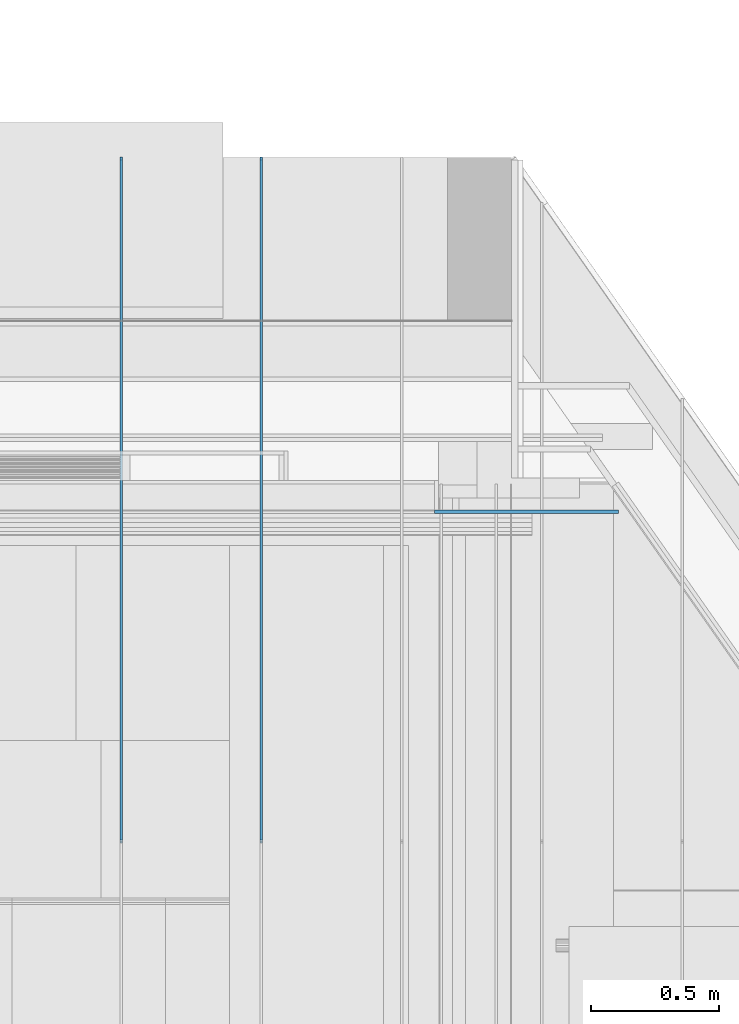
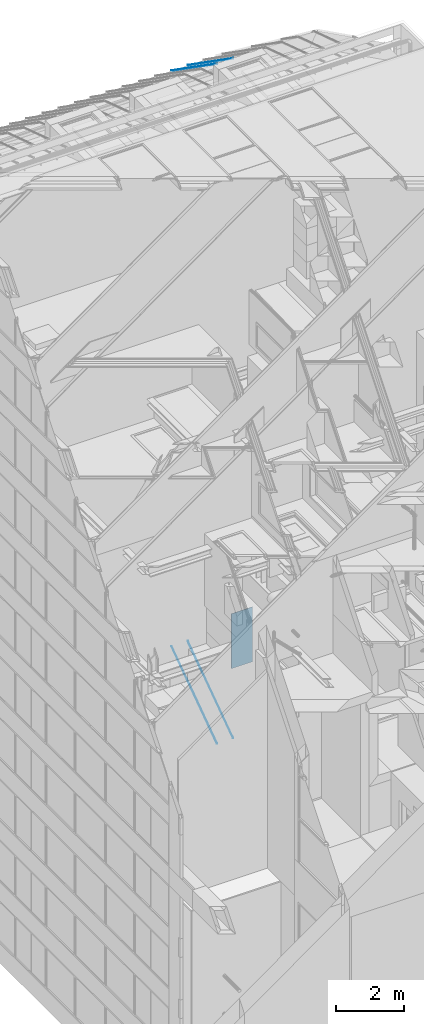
# One storey, part 295 of 583: 5 slabs.
"""IFC2X3 building model written with IfcOpenShell, lengths in metres."""

from ifc_helpers import new_model, entity, si_unit, converted_unit, derived_unit, money_unit, direction, frame, origin_with_axes, place, context, subcontext, project, spatial, faceted_brep, material, type_object, element, save


model = new_model("IFC2X3")

# Units and contexts
model_context = context("Model", 3, precision=1e-05, world=origin_with_axes(), true_north=direction((0.0, 1.0)))
body_context = subcontext(model_context, "Body", "Model", "MODEL_VIEW", scale=1.0)
ifc_project = project(units=[si_unit("LENGTHUNIT", "METRE"), si_unit("AREAUNIT", "SQUARE_METRE"), si_unit("VOLUMEUNIT", "CUBIC_METRE"), si_unit("ABSORBEDDOSEUNIT", "GRAY"), si_unit("AMOUNTOFSUBSTANCEUNIT", "MOLE"), si_unit("DOSEEQUIVALENTUNIT", "SIEVERT"), si_unit("ELECTRICCAPACITANCEUNIT", "FARAD"), si_unit("ELECTRICCHARGEUNIT", "COULOMB"), si_unit("ELECTRICCONDUCTANCEUNIT", "SIEMENS"), si_unit("ELECTRICCURRENTUNIT", "AMPERE"), si_unit("ELECTRICRESISTANCEUNIT", "OHM"), si_unit("ELECTRICVOLTAGEUNIT", "VOLT"), si_unit("ENERGYUNIT", "JOULE"), si_unit("FORCEUNIT", "NEWTON"), si_unit("FREQUENCYUNIT", "HERTZ"), si_unit("ILLUMINANCEUNIT", "LUX"), si_unit("INDUCTANCEUNIT", "HENRY"), si_unit("LUMINOUSFLUXUNIT", "LUMEN"), si_unit("LUMINOUSINTENSITYUNIT", "CANDELA"), si_unit("MAGNETICFLUXDENSITYUNIT", "TESLA"), si_unit("MAGNETICFLUXUNIT", "WEBER"), si_unit("MASSUNIT", "GRAM"), converted_unit("PLANEANGLEUNIT", "degree", entity("IfcReal", 0.0174532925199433), si_unit("PLANEANGLEUNIT", "RADIAN"), dimensions=[0, 0, 0, 0, 0, 0, 0]), si_unit("POWERUNIT", "WATT"), si_unit("PRESSUREUNIT", "PASCAL"), si_unit("RADIOACTIVITYUNIT", "BECQUEREL"), si_unit("SOLIDANGLEUNIT", "STERADIAN"), si_unit("THERMODYNAMICTEMPERATUREUNIT", "KELVIN"), si_unit("TIMEUNIT", "SECOND"), derived_unit("ACCELERATIONUNIT", [(si_unit("LENGTHUNIT", "METRE"), 1), (si_unit("TIMEUNIT", "SECOND"), -2)]), derived_unit("ANGULARVELOCITYUNIT", [(converted_unit("PLANEANGLEUNIT", "degree", entity("IfcReal", 0.0174532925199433), si_unit("PLANEANGLEUNIT", "RADIAN"), dimensions=[0, 0, 0, 0, 0, 0, 0]), 1), (si_unit("TIMEUNIT", "SECOND"), -1)]), derived_unit("CURVATUREUNIT", [(converted_unit("PLANEANGLEUNIT", "degree", entity("IfcReal", 0.0174532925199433), si_unit("PLANEANGLEUNIT", "RADIAN"), dimensions=[0, 0, 0, 0, 0, 0, 0]), 1), (si_unit("LENGTHUNIT", "METRE"), -1)]), derived_unit("DYNAMICVISCOSITYUNIT", [(si_unit("PRESSUREUNIT", "PASCAL"), 1), (si_unit("TIMEUNIT", "SECOND"), 1)]), derived_unit("HEATFLUXDENSITYUNIT", [(si_unit("POWERUNIT", "WATT"), 1), (si_unit("LENGTHUNIT", "METRE"), -2)]), derived_unit("HEATINGVALUEUNIT", [(si_unit("ENERGYUNIT", "JOULE"), 1), (si_unit("MASSUNIT", "GRAM"), -1)]), derived_unit("INTEGERCOUNTRATEUNIT", [(si_unit("TIMEUNIT", "SECOND"), -1)]), derived_unit("IONCONCENTRATIONUNIT", [(si_unit("MASSUNIT", "GRAM"), 1), (si_unit("VOLUMEUNIT", "CUBIC_METRE"), -1)]), derived_unit("ISOTHERMALMOISTURECAPACITYUNIT", [(si_unit("VOLUMEUNIT", "CUBIC_METRE"), 1), (si_unit("MASSUNIT", "GRAM"), -1)]), derived_unit("KINEMATICVISCOSITYUNIT", [(si_unit("AREAUNIT", "SQUARE_METRE"), 1), (si_unit("TIMEUNIT", "SECOND"), -1)]), derived_unit("LINEARFORCEUNIT", [(si_unit("FORCEUNIT", "NEWTON"), 1), (si_unit("LENGTHUNIT", "METRE"), -1)]), derived_unit("LINEARMOMENTUNIT", [(si_unit("FORCEUNIT", "NEWTON"), 1), (si_unit("LENGTHUNIT", "METRE"), -1)]), derived_unit("LINEARSTIFFNESSUNIT", [(si_unit("FORCEUNIT", "NEWTON"), 1), (si_unit("LENGTHUNIT", "METRE"), -1)]), derived_unit("LINEARVELOCITYUNIT", [(si_unit("LENGTHUNIT", "METRE"), 1), (si_unit("TIMEUNIT", "SECOND"), -1)]), derived_unit("LUMINOUSINTENSITYDISTRIBUTIONUNIT", [(si_unit("LUMINOUSINTENSITYUNIT", "CANDELA"), 1), (si_unit("LUMINOUSFLUXUNIT", "LUMEN"), -1)]), derived_unit("MASSDENSITYUNIT", [(si_unit("MASSUNIT", "GRAM"), 1), (si_unit("VOLUMEUNIT", "CUBIC_METRE"), -1)]), derived_unit("MASSFLOWRATEUNIT", [(si_unit("MASSUNIT", "GRAM"), 1), (si_unit("TIMEUNIT", "SECOND"), -1)]), derived_unit("MASSPERLENGTHUNIT", [(si_unit("MASSUNIT", "GRAM"), 1), (si_unit("LENGTHUNIT", "METRE"), -1)]), derived_unit("MODULUSOFELASTICITYUNIT", [(si_unit("FORCEUNIT", "NEWTON"), 1), (si_unit("AREAUNIT", "SQUARE_METRE"), -1)]), derived_unit("MODULUSOFLINEARSUBGRADEREACTIONUNIT", [(si_unit("FORCEUNIT", "NEWTON"), 1), (si_unit("LENGTHUNIT", "METRE"), -2)]), derived_unit("MODULUSOFROTATIONALSUBGRADEREACTIONUNIT", [(si_unit("FORCEUNIT", "NEWTON"), 1), (si_unit("LENGTHUNIT", "METRE"), 1)]), derived_unit("MODULUSOFSUBGRADEREACTIONUNIT", [(si_unit("FORCEUNIT", "NEWTON"), 1), (si_unit("VOLUMEUNIT", "CUBIC_METRE"), -1)]), derived_unit("MOISTUREDIFFUSIVITYUNIT", [(si_unit("VOLUMEUNIT", "CUBIC_METRE"), 1), (si_unit("TIMEUNIT", "SECOND"), -1)]), derived_unit("MOLECULARWEIGHTUNIT", [(si_unit("MASSUNIT", "GRAM"), 1), (si_unit("AMOUNTOFSUBSTANCEUNIT", "MOLE"), -1)]), derived_unit("PLANARFORCEUNIT", [(si_unit("FORCEUNIT", "NEWTON"), 1), (si_unit("LENGTHUNIT", "METRE"), -2)]), derived_unit("ROTATIONALFREQUENCYUNIT", [(si_unit("TIMEUNIT", "SECOND"), -1)]), derived_unit("ROTATIONALMASSUNIT", [(si_unit("MASSUNIT", "GRAM"), 1), (si_unit("LENGTHUNIT", "METRE"), 2)]), derived_unit("ROTATIONALSTIFFNESSUNIT", [(si_unit("FORCEUNIT", "NEWTON"), 1), (si_unit("LENGTHUNIT", "METRE"), 1), (converted_unit("PLANEANGLEUNIT", "degree", entity("IfcReal", 0.0174532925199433), si_unit("PLANEANGLEUNIT", "RADIAN"), dimensions=[0, 0, 0, 0, 0, 0, 0]), -1)]), derived_unit("SECTIONAREAINTEGRALUNIT", [(si_unit("LENGTHUNIT", "METRE"), 5)]), derived_unit("SECTIONMODULUSUNIT", [(si_unit("LENGTHUNIT", "METRE"), 3)]), derived_unit("SHEARMODULUSUNIT", [(si_unit("FORCEUNIT", "NEWTON"), 1), (si_unit("AREAUNIT", "SQUARE_METRE"), -1)]), derived_unit("SOUNDPOWERUNIT", [(si_unit("ENERGYUNIT", "JOULE"), 1), (si_unit("TIMEUNIT", "SECOND"), -1)]), derived_unit("SPECIFICHEATCAPACITYUNIT", [(si_unit("FORCEUNIT", "NEWTON"), 1), (si_unit("MASSUNIT", "GRAM"), -1), (si_unit("THERMODYNAMICTEMPERATUREUNIT", "KELVIN"), -1)]), derived_unit("TEMPERATUREGRADIENTUNIT", [(si_unit("THERMODYNAMICTEMPERATUREUNIT", "KELVIN"), 1), (si_unit("LENGTHUNIT", "METRE"), -1)]), derived_unit("THERMALADMITTANCEUNIT", [(si_unit("POWERUNIT", "WATT"), 1), (si_unit("AREAUNIT", "SQUARE_METRE"), -1), (si_unit("THERMODYNAMICTEMPERATUREUNIT", "KELVIN"), -1)]), derived_unit("THERMALCONDUCTANCEUNIT", [(si_unit("POWERUNIT", "WATT"), 1), (si_unit("LENGTHUNIT", "METRE"), -1), (si_unit("THERMODYNAMICTEMPERATUREUNIT", "KELVIN"), -1)]), derived_unit("THERMALEXPANSIONCOEFFICIENTUNIT", [(si_unit("THERMODYNAMICTEMPERATUREUNIT", "KELVIN"), -1)]), derived_unit("THERMALRESISTANCEUNIT", [(si_unit("AREAUNIT", "SQUARE_METRE"), 1), (si_unit("POWERUNIT", "WATT"), -1)]), derived_unit("THERMALTRANSMITTANCEUNIT", [(si_unit("POWERUNIT", "WATT"), 1), (si_unit("AREAUNIT", "SQUARE_METRE"), -1), (si_unit("THERMODYNAMICTEMPERATUREUNIT", "KELVIN"), -1)]), derived_unit("TORQUEUNIT", [(si_unit("FORCEUNIT", "NEWTON"), 1), (si_unit("LENGTHUNIT", "METRE"), 1)]), derived_unit("VAPORPERMEABILITYUNIT", [(si_unit("MASSUNIT", "GRAM"), 1), (si_unit("TIMEUNIT", "SECOND"), -1)]), derived_unit("VOLUMETRICFLOWRATEUNIT", [(si_unit("VOLUMEUNIT", "CUBIC_METRE"), 1), (si_unit("TIMEUNIT", "SECOND"), -1)]), derived_unit("WARPINGCONSTANTUNIT", [(si_unit("LENGTHUNIT", "METRE"), 6)]), derived_unit("WARPINGMOMENTUNIT", [(si_unit("FORCEUNIT", "NEWTON"), 1), (si_unit("LENGTHUNIT", "METRE"), 2)]), money_unit("GBP")], contexts=[model_context])

# Site, building, storey
site_placement = place(None, origin_with_axes())
site = spatial("IfcSite", under=ifc_project, at=site_placement, Name="Site", CompositionType="ELEMENT")
building_placement = place(site_placement, origin_with_axes())
building = spatial("IfcBuilding", under=site, at=building_placement, Name="Building01", CompositionType="ELEMENT")
storey_placement = place(building_placement, frame((0.0, 0.0, 20.78), z_axis=(0.0, 0.0, 1.0), x_axis=(1.0, 0.0, 0.0)))
storey = spatial("IfcBuildingStorey", under=building, at=storey_placement, Name="RL", CompositionType="ELEMENT", Elevation=20.78)

# Slabs
ifc_material_1 = material(Name="A_BSUK_CeilingSoffitFinishes_Suspended")
slab_type = type_object("IfcSlabType", Name="A-FloorsSlabs A_BSUK_Slabs", PredefinedType="FLOOR")
placement = place(storey_placement, frame((0.0, 0.0, -20.78), z_axis=(0.0, 0.0, 1.0), x_axis=(1.0, 0.0, 0.0)))
element("IfcSlab", 1, at=placement, inside=storey, type_object=slab_type, material=ifc_material_1, Name="A-FloorsSlabs A_BSUK_Slabs", ObjectType="CompoundSlabLeaf", context=body_context, shape_type="Brep", body=[
    faceted_brep([(12.117674, 20.065, 2.798126), (12.117674, 20.08, 2.798126), (12.117674, 20.08, 4.760024), (12.117674, 20.065, 4.760024), (11.399939, 20.065, 2.798126), (11.399939, 20.08, 2.798126), (11.399939, 20.065, 4.760024), (11.399939, 20.08, 4.760024)], [[[0, 1, 2, 3]], [[4, 5, 1, 0]], [[6, 7, 5, 4]], [[3, 2, 7, 6]], [[1, 5, 7, 2]], [[3, 6, 4, 0]]]),
])
ifc_material_2 = material(Name="A_BSUK_Roofs")
for number, where, z_axis, x_axis, name in (
    (2, (10.180953, 18.780461, -19.44574), (0.0, 1.0, 0.0), (0.0, 0.0, 1.0), "A-FloorsSlabs A_BSUK_Slabs"),
    (3, (10.728453, 18.780461, -19.44574), (0.0, 1.0, 0.0), (0.0, 0.0, 1.0), "A-FloorsSlabs A_BSUK_Slabs"),
):
    element("IfcSlab", number, at=place(storey_placement, frame(where, z_axis=z_axis, x_axis=x_axis)), inside=storey, type_object=slab_type, material=ifc_material_2, Name=name, ObjectType="A-FloorsSlabs A_BSUK_Slabs", context=body_context, shape_type="Brep", body=[
        faceted_brep([(0.0, 0.0, 0.0), (-0.016383, 0.0, 0.011472), (1.849297, 0.0, 2.675938), (1.86568, 0.0, 2.664467), (1.849297, -0.01, 2.675938), (1.86568, -0.01, 2.664467), (-0.016383, -0.01, 0.011472), (0.0, -0.01, 0.0)], [[[0, 1, 2, 3]], [[3, 2, 4, 5]], [[5, 4, 6, 7]], [[7, 6, 1, 0]], [[1, 6, 4, 2]], [[3, 5, 7, 0]]]),
    ])
element("IfcSlab", 4, at=placement, inside=storey, type_object=slab_type, material=ifc_material_2, Name="A-FloorsSlabs A_BSUK_Slabs", ObjectType="CompoundSlabLeaf", context=body_context, shape_type="Brep", body=[
    faceted_brep([(10.180953, 21.444928, 23.780061), (10.180953, 21.456399, 23.796444), (10.180953, 18.791933, 25.662123), (10.180953, 18.780461, 25.64574), (10.170953, 21.444928, 23.780061), (10.170953, 21.456399, 23.796444), (10.170953, 18.780461, 25.64574), (10.170953, 18.791933, 25.662123)], [[[0, 1, 2, 3]], [[4, 5, 1, 0]], [[6, 7, 5, 4]], [[3, 2, 7, 6]], [[1, 5, 7, 2]], [[3, 6, 4, 0]]]),
])
element("IfcSlab", 5, at=placement, inside=storey, type_object=slab_type, material=ifc_material_2, Name="A-FloorsSlabs A_BSUK_Slabs", ObjectType="CompoundSlabLeaf", context=body_context, shape_type="Brep", body=[
    faceted_brep([(10.728453, 21.444928, 23.780061), (10.728453, 21.456399, 23.796444), (10.728453, 18.791933, 25.662123), (10.728453, 18.780461, 25.64574), (10.718453, 21.444928, 23.780061), (10.718453, 21.456399, 23.796444), (10.718453, 18.780461, 25.64574), (10.718453, 18.791933, 25.662123)], [[[0, 1, 2, 3]], [[4, 5, 1, 0]], [[6, 7, 5, 4]], [[3, 2, 7, 6]], [[1, 5, 7, 2]], [[3, 6, 4, 0]]]),
])

save(model, "model.ifc")
